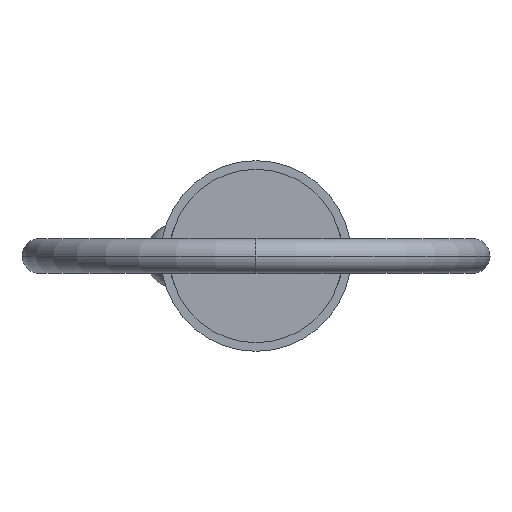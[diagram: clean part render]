
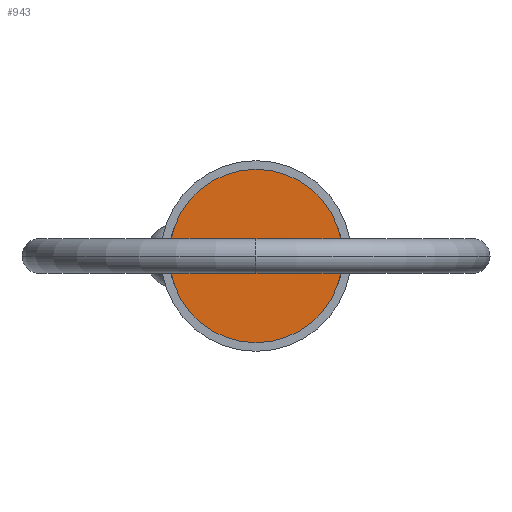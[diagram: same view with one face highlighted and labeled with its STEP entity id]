
A CAD part, left-side view. The second image highlights one B-rep face of the part: STEP entity #943.
In plain terms, the highlighted planar face has unit normal (-1, 0, 0).
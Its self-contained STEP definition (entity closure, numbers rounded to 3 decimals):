
#12 = AXIS2_PLACEMENT_3D ( 'NONE', #187, #1028, #108 ) ;
#40 = CARTESIAN_POINT ( 'NONE',  ( 0., 0., 12.7 ) ) ;
#108 = DIRECTION ( 'NONE',  ( 0., 0., 1. ) ) ;
#135 = AXIS2_PLACEMENT_3D ( 'NONE', #592, #851, #946 ) ;
#187 = CARTESIAN_POINT ( 'NONE',  ( 0., 0., 0. ) ) ;
#252 = CARTESIAN_POINT ( 'NONE',  ( 0., 0., 0. ) ) ;
#338 = PLANE ( 'NONE',  #12 ) ;
#433 = EDGE_CURVE ( 'NONE', #1007, #723, #893, .T. ) ;
#507 = ORIENTED_EDGE ( 'NONE', *, *, #433, .F. ) ;
#523 = FACE_OUTER_BOUND ( 'NONE', #646, .T. ) ;
#592 = CARTESIAN_POINT ( 'NONE',  ( 0., 0., 0. ) ) ;
#646 = EDGE_LOOP ( 'NONE', ( #507, #1010 ) ) ;
#723 = VERTEX_POINT ( 'NONE', #40 ) ;
#733 = AXIS2_PLACEMENT_3D ( 'NONE', #252, #1077, #817 ) ;
#817 = DIRECTION ( 'NONE',  ( 0., 0., -1. ) ) ;
#851 = DIRECTION ( 'NONE',  ( 1., 0., 0. ) ) ;
#893 = CIRCLE ( 'NONE', #733, 12.7 ) ;
#943 = ADVANCED_FACE ( 'NONE', ( #523 ), #338, .T. ) ;
#946 = DIRECTION ( 'NONE',  ( 0., 0., -1. ) ) ;
#972 = EDGE_CURVE ( 'NONE', #723, #1007, #1084, .T. ) ;
#1007 = VERTEX_POINT ( 'NONE', #1024 ) ;
#1010 = ORIENTED_EDGE ( 'NONE', *, *, #972, .F. ) ;
#1024 = CARTESIAN_POINT ( 'NONE',  ( 0., 0., -12.7 ) ) ;
#1028 = DIRECTION ( 'NONE',  ( -1., 0., 0. ) ) ;
#1077 = DIRECTION ( 'NONE',  ( 1., 0., 0. ) ) ;
#1084 = CIRCLE ( 'NONE', #135, 12.7 ) ;
